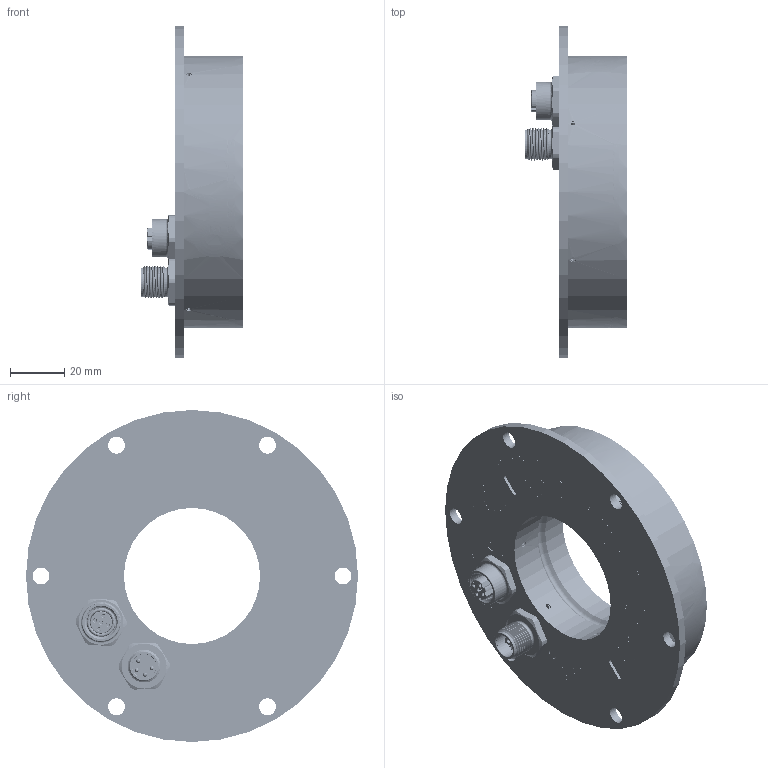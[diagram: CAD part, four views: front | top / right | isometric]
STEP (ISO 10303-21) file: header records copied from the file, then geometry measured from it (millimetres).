
FILE_DESCRIPTION (( 'STEP AP203' ), '1' );
FILE_NAME ('K0E012320_IC-BASE F100_50_zum_Versenden.STEP', '2023-12-22T08:28:43', ( '' ), ( '' ), 'SwSTEP 2.0', 'SolidWorks 2023', '' );
FILE_SCHEMA (( 'CONFIG_CONTROL_DESIGN' ));
Length unit declared in the file: millimetre
Products named in the file (1): K0E012320_IC-BASE F100_50_zum_Versenden
Bounding box: 37.8 x 122 x 122 mm (x, y, z)
Surface area: 72932.4 mm2 (no closed solid volume)
Topology: 0 solids, 30 shells, 6639 faces, 18430 edges, 12506 vertices
Faces by surface type: plane 3694, bspline 2033, cylinder 629, cone 182, torus 101
Entity records: 321574 total; most frequent: CARTESIAN_POINT 165101, ORIENTED_EDGE 36714, DIRECTION 24253, EDGE_CURVE 18418, VERTEX_POINT 12506, LINE 11833, VECTOR 11833, EDGE_LOOP 7404
